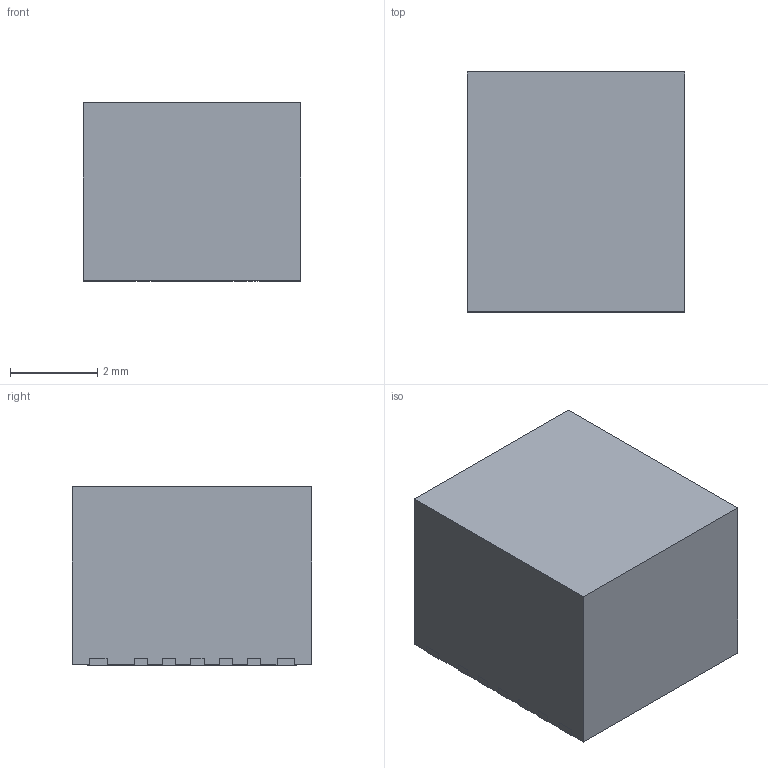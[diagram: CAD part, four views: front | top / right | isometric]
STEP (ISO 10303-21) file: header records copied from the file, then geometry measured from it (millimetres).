
FILE_DESCRIPTION (( 'STEP AP214' ), '1' );
FILE_NAME ('RPX-4.0_3D_20210201.STEP', '2021-02-01T14:17:15', ( '' ), ( '' ), 'SwSTEP 2.0', 'SolidWorks 2019', '' );
FILE_SCHEMA (( 'AUTOMOTIVE_DESIGN' ));
Length unit declared in the file: millimetre
Products named in the file (1): RPX-4.0_3D_20210201
Bounding box: 5 x 5.5 x 4.1 mm (x, y, z)
Volume: 112.5 mm3; surface area: 174.8 mm2
Topology: 16 solids, 16 shells, 299 faces, 798 edges, 532 vertices
Faces by surface type: plane 261, cylinder 38
Entity records: 12646 total; most frequent: CARTESIAN_POINT 1630, ORIENTED_EDGE 1596, DIRECTION 1474, EDGE_CURVE 798, VECTOR 722, LINE 722, VERTEX_POINT 532, AXIS2_PLACEMENT_3D 376
